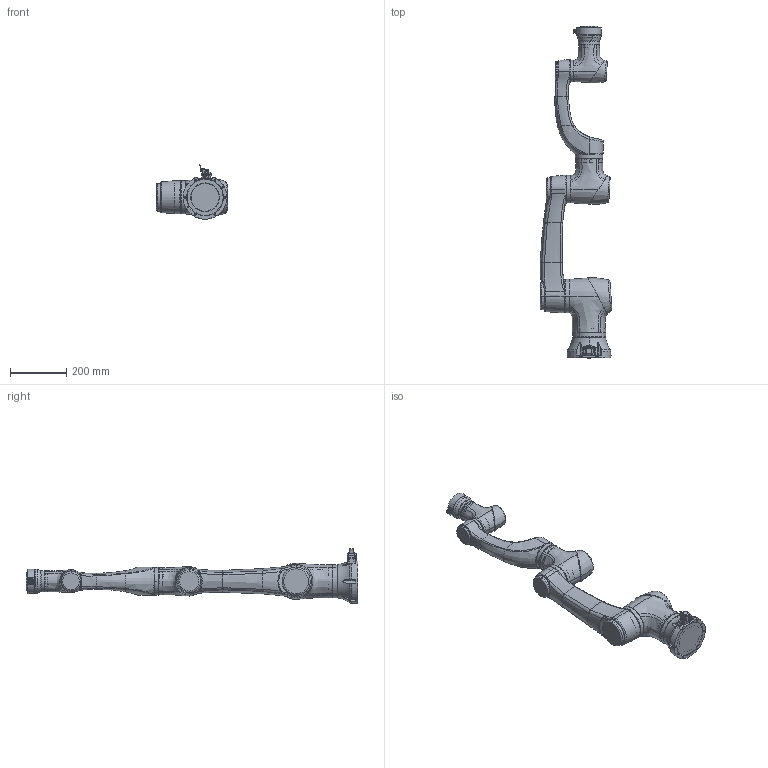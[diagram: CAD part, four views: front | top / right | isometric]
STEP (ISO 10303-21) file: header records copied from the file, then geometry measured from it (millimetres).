
FILE_DESCRIPTION (( 'STEP AP203' ), '1' );
FILE_NAME ('P05_潠趙_full.STEP', '2021-07-12T09:14:17', ( 'hans' ), ( 'hanslaser.com' ), 'SwSTEP 2.0', 'SolidWorks 2020', '' );
FILE_SCHEMA (( 'CONFIG_CONTROL_DESIGN' ));
Length unit declared in the file: millimetre
Products named in the file (8): 14_IO藺傷_潠趙_full; P_5kg菁釱_潠趙_full; P05_潠趙_full; P_5kg奻旋_潠趙_full; P_5kg狟旋_潠趙_full; P_14_潠趙_full; P_20_潠趙_full; P_25_2_潠趙_full
Assembly tree (7 placements, depth 2):
  P05_潠趙_full
    P_5kg菁釱_潠趙_full
    P_5kg奻旋_潠趙_full
    P_5kg狟旋_潠趙_full
    P_14_潠趙_full
    P_20_潠趙_full
    P_25_2_潠趙_full
    14_IO藺傷_潠趙_full
Bounding box: 255.22 x 1180 x 193.44 mm (x, y, z)
Volume: 2431694 mm3; surface area: 1328349.2 mm2
Topology: 14 solids, 47 shells, 1993 faces, 4764 edges, 2933 vertices
Faces by surface type: bspline 638, cylinder 601, plane 422, cone 230, torus 70, sphere 32
Entity records: 227788 total; most frequent: CARTESIAN_POINT 185661, ORIENTED_EDGE 9412, DIRECTION 7262, EDGE_CURVE 4712, AXIS2_PLACEMENT_3D 2976, VERTEX_POINT 2933, EDGE_LOOP 2193, FACE_OUTER_BOUND 1993
